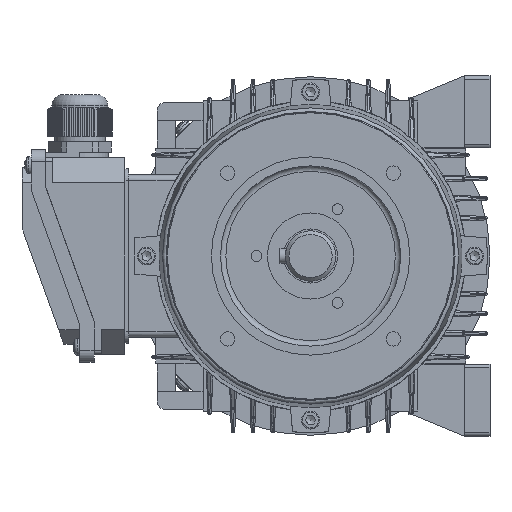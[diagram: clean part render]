
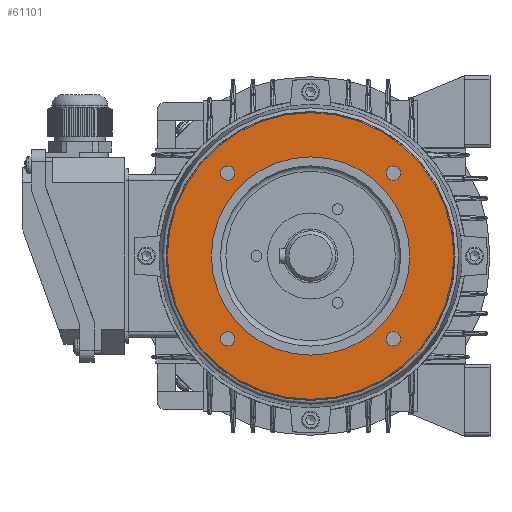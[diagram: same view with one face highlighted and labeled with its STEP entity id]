
A CAD part, left-side view. The second image highlights one B-rep face of the part: STEP entity #61101.
In plain terms, the highlighted planar face has unit normal (-1, 0, 0).
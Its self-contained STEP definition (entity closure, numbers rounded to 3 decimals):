
#13436=FACE_BOUND('',#17514,.T.);
#13437=FACE_BOUND('',#17515,.T.);
#13438=FACE_BOUND('',#17516,.T.);
#13439=FACE_BOUND('',#17517,.T.);
#13440=FACE_BOUND('',#17518,.T.);
#13940=FACE_OUTER_BOUND('',#17513,.T.);
#17513=EDGE_LOOP('',(#38513));
#17514=EDGE_LOOP('',(#38514));
#17515=EDGE_LOOP('',(#38515));
#17516=EDGE_LOOP('',(#38516));
#17517=EDGE_LOOP('',(#38517));
#17518=EDGE_LOOP('',(#38518));
#21274=CIRCLE('',#64733,4.);
#21276=CIRCLE('',#64737,4.);
#21278=CIRCLE('',#64741,4.);
#21280=CIRCLE('',#64745,4.);
#21282=CIRCLE('',#64751,79.5);
#21283=CIRCLE('',#64753,55.);
#23530=VERTEX_POINT('',#87023);
#23532=VERTEX_POINT('',#87029);
#23534=VERTEX_POINT('',#87035);
#23536=VERTEX_POINT('',#87041);
#23537=VERTEX_POINT('',#87048);
#23538=VERTEX_POINT('',#87051);
#29351=EDGE_CURVE('',#23530,#23530,#21274,.T.);
#29353=EDGE_CURVE('',#23532,#23532,#21276,.T.);
#29355=EDGE_CURVE('',#23534,#23534,#21278,.T.);
#29357=EDGE_CURVE('',#23536,#23536,#21280,.T.);
#29359=EDGE_CURVE('',#23537,#23537,#21282,.T.);
#29360=EDGE_CURVE('',#23538,#23538,#21283,.T.);
#38513=ORIENTED_EDGE('',*,*,#29359,.F.);
#38514=ORIENTED_EDGE('',*,*,#29351,.T.);
#38515=ORIENTED_EDGE('',*,*,#29353,.T.);
#38516=ORIENTED_EDGE('',*,*,#29355,.T.);
#38517=ORIENTED_EDGE('',*,*,#29357,.T.);
#38518=ORIENTED_EDGE('',*,*,#29360,.F.);
#55719=PLANE('',#64752);
#61101=ADVANCED_FACE('',(#13940,#13436,#13437,#13438,#13439,#13440),#55719,
 .T.);
#64733=AXIS2_PLACEMENT_3D('',#87024,#70449,#70450);
#64737=AXIS2_PLACEMENT_3D('',#87030,#70457,#70458);
#64741=AXIS2_PLACEMENT_3D('',#87036,#70465,#70466);
#64745=AXIS2_PLACEMENT_3D('',#87042,#70473,#70474);
#64751=AXIS2_PLACEMENT_3D('',#87049,#70485,#70486);
#64752=AXIS2_PLACEMENT_3D('',#87050,#70487,#70488);
#64753=AXIS2_PLACEMENT_3D('',#87052,#70489,#70490);
#70449=DIRECTION('center_axis',(1.,0.,0.));
#70450=DIRECTION('ref_axis',(0.,-1.,0.));
#70457=DIRECTION('center_axis',(1.,0.,0.));
#70458=DIRECTION('ref_axis',(0.,0.,1.));
#70465=DIRECTION('center_axis',(1.,0.,0.));
#70466=DIRECTION('ref_axis',(0.,1.,0.));
#70473=DIRECTION('center_axis',(1.,0.,0.));
#70474=DIRECTION('ref_axis',(0.,0.,-1.));
#70485=DIRECTION('center_axis',(1.,0.,0.));
#70486=DIRECTION('ref_axis',(0.,-1.,0.));
#70487=DIRECTION('center_axis',(-1.,0.,0.));
#70488=DIRECTION('ref_axis',(0.,0.,1.));
#70489=DIRECTION('center_axis',(-1.,0.,0.));
#70490=DIRECTION('ref_axis',(0.,1.,0.));
#87023=CARTESIAN_POINT('',(-123.7,13.595,-45.962));
#87024=CARTESIAN_POINT('Origin',(-123.7,9.595,-45.962));
#87029=CARTESIAN_POINT('',(-123.7,-82.329,-49.962));
#87030=CARTESIAN_POINT('Origin',(-123.7,-82.329,-45.962));
#87035=CARTESIAN_POINT('',(-123.7,-86.329,45.962));
#87036=CARTESIAN_POINT('Origin',(-123.7,-82.329,45.962));
#87041=CARTESIAN_POINT('',(-123.7,9.595,49.962));
#87042=CARTESIAN_POINT('Origin',(-123.7,9.595,45.962));
#87048=CARTESIAN_POINT('',(-123.7,43.133,0.));
#87049=CARTESIAN_POINT('Origin',(-123.7,-36.367,0.));
#87050=CARTESIAN_POINT('Origin',(-123.7,31.133,0.));
#87051=CARTESIAN_POINT('',(-123.7,18.633,0.));
#87052=CARTESIAN_POINT('Origin',(-123.7,-36.367,0.));
